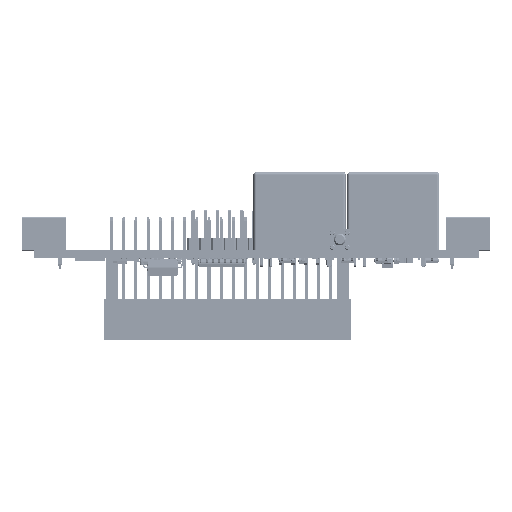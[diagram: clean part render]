
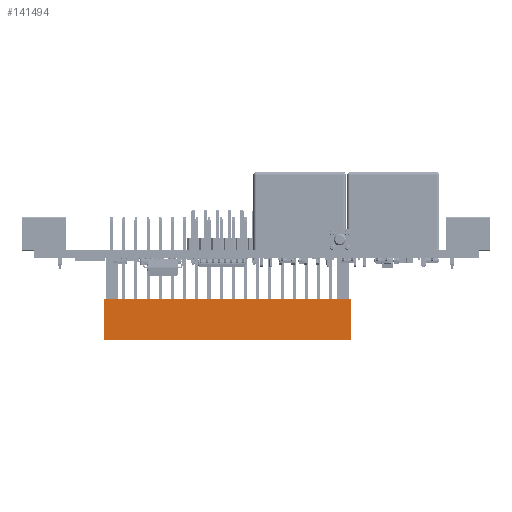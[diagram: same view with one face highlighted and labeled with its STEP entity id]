
A CAD part, front view. The second image highlights one B-rep face of the part: STEP entity #141494.
In plain terms, the highlighted planar face has unit normal (0, -1, 0) as drawn and (0, 1, 0) by its records, which use the part's own axes.
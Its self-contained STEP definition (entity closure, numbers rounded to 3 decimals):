
#138361 = EDGE_CURVE('',#138362,#138364,#138366,.T.);
#138362 = VERTEX_POINT('',#138363);
#138363 = CARTESIAN_POINT('',(25.749,2.538,
    17.075));
#138364 = VERTEX_POINT('',#138365);
#138365 = CARTESIAN_POINT('',(-25.749,2.538,
    17.075));
#138366 = LINE('',#138367,#138368);
#138367 = CARTESIAN_POINT('',(9.325,2.538,
    17.075));
#138368 = VECTOR('',#138369,1.);
#138369 = DIRECTION('',(-1.,0.,0.));
#139762 = VERTEX_POINT('',#139763);
#139763 = CARTESIAN_POINT('',(-25.749,2.538,
    8.575));
#139771 = EDGE_CURVE('',#139762,#139772,#139774,.T.);
#139772 = VERTEX_POINT('',#139773);
#139773 = CARTESIAN_POINT('',(25.749,2.538,
    8.575));
#139774 = LINE('',#139775,#139776);
#139775 = CARTESIAN_POINT('',(12.3,2.538,
    8.575));
#139776 = VECTOR('',#139777,1.);
#139777 = DIRECTION('',(1.,0.,0.));
#141494 = ADVANCED_FACE('',(#141495),#141511,.F.);
#141495 = FACE_BOUND('',#141496,.T.);
#141496 = EDGE_LOOP('',(#141497,#141498,#141504,#141505));
#141497 = ORIENTED_EDGE('',*,*,#139771,.F.);
#141498 = ORIENTED_EDGE('',*,*,#141499,.F.);
#141499 = EDGE_CURVE('',#138364,#139762,#141500,.T.);
#141500 = LINE('',#141501,#141502);
#141501 = CARTESIAN_POINT('',(-25.749,2.538,
    8.575));
#141502 = VECTOR('',#141503,1.);
#141503 = DIRECTION('',(0.,0.,-1.));
#141504 = ORIENTED_EDGE('',*,*,#138361,.F.);
#141505 = ORIENTED_EDGE('',*,*,#141506,.F.);
#141506 = EDGE_CURVE('',#139772,#138362,#141507,.T.);
#141507 = LINE('',#141508,#141509);
#141508 = CARTESIAN_POINT('',(25.749,2.538,
    8.575));
#141509 = VECTOR('',#141510,1.);
#141510 = DIRECTION('',(0.,0.,1.));
#141511 = PLANE('',#141512);
#141512 = AXIS2_PLACEMENT_3D('',#141513,#141514,#141515);
#141513 = CARTESIAN_POINT('',(9.76,2.538,
    8.575));
#141514 = DIRECTION('',(0.,-1.,0.));
#141515 = DIRECTION('',(1.,0.,0.));
